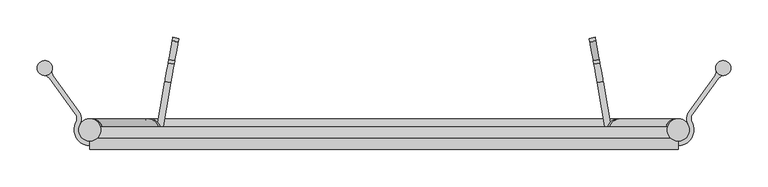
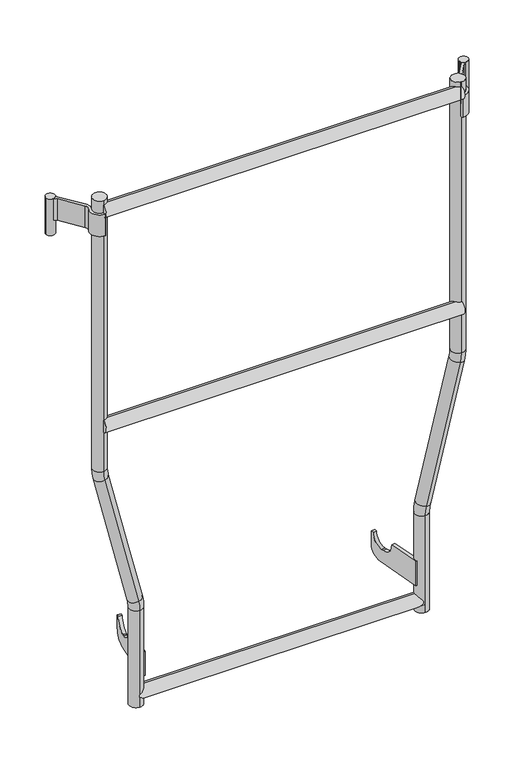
"""IFC4 building model written with IfcOpenShell, lengths in millimetres: proxy geometry, MILLS_TOEC_GARDE_CORPS_MDS : GCMDS100EE."""

from ifc_helpers import new_model, si_unit, point, frame, frame_2d, origin, place, context, project, spatial, polyline, circle_curve, ellipse_curve, trimmed, segment, composite_curve, outline, extrude, source, transform, mapped, element, save
from ifc_brep_helpers import plane_surface, cylinder_surface, revolved_surface, advanced_brep


def specialty_equipment_3c3e35c8(model_context):
    return source(origin(), model_context, "Body", "SolidModel", [
        advanced_brep(
        [(-2311.0208401, -79.0, 96.9657303), (-2311.0208401, -109.0, 96.9657303), (-2311.0208401, -109.0, -532.2491548), (-2311.0208401, -79.0, -532.2491548), (-2313.5691062, -79.0, -553.5140141), (-2313.5691062, -109.0, -553.5140141), (-2388.4725739, -109.0, -861.5545253), (-2388.4725739, -79.0, -861.5545253), (-2391.0208401, -79.0, -882.8193846), (-2391.0208401, -109.0, -882.8193846), (-2391.0208401, -79.0, -1108.0342697), (-2391.0208401, -109.0, -1108.0342697)],
        [
            (0, 1, circle_curve(frame((-2311.0208401, -94.0, 96.9657303), z_axis=(0.0, 0.0, 1.0), x_axis=(0.0, -1.0, 0.0)), 15.0)),
            (1, 0, circle_curve(frame((-2311.0208401, -94.0, 96.9657303), z_axis=(0.0, 0.0, 1.0), x_axis=(0.0, -1.0, 0.0)), 15.0)),
            (1, 2),
            (2, 3, circle_curve(frame((-2311.0208401, -94.0, -532.2491548), z_axis=(0.0, 0.0, 1.0), x_axis=(0.0, -1.0, 0.0)), 15.0)),
            (3, 0),
            (3, 2, circle_curve(frame((-2311.0208401, -94.0, -532.2491548), z_axis=(0.0, 0.0, 1.0), x_axis=(0.0, -1.0, 0.0)), 15.0)),
            (4, 3, circle_curve(frame((-2401.0208401, -79.0, -532.2491548), z_axis=(0.0, -1.0, 0.0), x_axis=(1.0, 0.0, 0.0)), 90.0)),
            (2, 5, circle_curve(frame((-2401.0208401, -109.0, -532.2491548), z_axis=(0.0, 1.0, 0.0), x_axis=(1.0, 0.0, 0.0)), 90.0)),
            (5, 4, circle_curve(frame((-2313.5691062, -94.0, -553.5140141), z_axis=(0.23627621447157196, 0.0, 0.9716859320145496), x_axis=(0.0, -1.0, 0.0)), 15.0)),
            (4, 5, circle_curve(frame((-2313.5691062, -94.0, -553.5140141), z_axis=(0.23627621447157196, 0.0, 0.9716859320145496), x_axis=(0.0, -1.0, 0.0)), 15.0)),
            (5, 6),
            (6, 7, circle_curve(frame((-2388.4725739, -94.0, -861.5545253), z_axis=(0.23627621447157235, 0.0, 0.9716859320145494), x_axis=(0.0, -1.0, 0.0)), 15.0)),
            (7, 4),
            (7, 6, circle_curve(frame((-2388.4725739, -94.0, -861.5545253), z_axis=(0.23627621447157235, 0.0, 0.9716859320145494), x_axis=(0.0, -1.0, 0.0)), 15.0)),
            (8, 7, circle_curve(frame((-2301.0208401, -79.0, -882.8193846), z_axis=(0.0, 1.0, 0.0), x_axis=(-0.9716859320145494, 0.0, 0.23627621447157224)), 90.0)),
            (6, 9, circle_curve(frame((-2301.0208401, -109.0, -882.8193846), z_axis=(0.0, -1.0, 0.0), x_axis=(-0.9716859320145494, 0.0, 0.23627621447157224)), 90.0)),
            (9, 8, circle_curve(frame((-2391.0208401, -94.0, -882.8193846), z_axis=(0.0, 0.0, 1.0), x_axis=(0.0, -1.0, 0.0)), 15.0)),
            (8, 9, circle_curve(frame((-2391.0208401, -94.0, -882.8193846), z_axis=(0.0, 0.0, 1.0), x_axis=(0.0, -1.0, 0.0)), 15.0)),
            (10, 11, circle_curve(frame((-2391.0208401, -94.0, -1108.0342697), z_axis=(0.0, 0.0, -1.0), x_axis=(0.0, -1.0, 0.0)), 15.0)),
            (11, 10, circle_curve(frame((-2391.0208401, -94.0, -1108.0342697), z_axis=(0.0, 0.0, -1.0), x_axis=(0.0, -1.0, 0.0)), 15.0)),
            (9, 11),
            (10, 8),
        ],
        [
            plane_surface(frame((-2311.0208401, -94.0, 96.9657303), z_axis=(0.0, 0.0, 1.0), x_axis=(0.0, -1.0, 0.0))),
            cylinder_surface(frame((-2311.0208401, -94.0, 96.9657303), z_axis=(0.0, 0.0, 1.0), x_axis=(0.0, -1.0, 0.0)), 15.0),
            revolved_surface(trimmed(ellipse_curve(frame((-2311.0208401, -94.0, -532.2491548), z_axis=(0.0, 0.0, 1.0), x_axis=(0.0, -1.0, 0.0)), 15.0, 15.0), [point((-2311.0208401, -109.0, -532.2491548))], [point((-2311.0208401, -79.0, -532.2491548))], True, "CARTESIAN"), (-2401.0208401, -94.0, -532.2491548), (0.0, 1.0, 0.0)),
            revolved_surface(trimmed(ellipse_curve(frame((-2311.0208401, -94.0, -532.2491548), z_axis=(0.0, 0.0, 1.0), x_axis=(0.0, -1.0, 0.0)), 15.0, 15.0), [point((-2311.0208401, -79.0, -532.2491548))], [point((-2311.0208401, -109.0, -532.2491548))], True, "CARTESIAN"), (-2401.0208401, -94.0, -532.2491548), (0.0, 1.0, 0.0)),
            cylinder_surface(frame((-2313.5691062, -94.0, -553.5140141), z_axis=(0.23627621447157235, 0.0, 0.9716859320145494), x_axis=(0.0, -1.0, 0.0)), 15.0),
            revolved_surface(trimmed(ellipse_curve(frame((-2388.4725739, -94.0, -861.5545253), z_axis=(0.23627621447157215, 0.0, 0.9716859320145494), x_axis=(0.0, -1.0, 0.0)), 15.0, 15.0), [point((-2388.4725739, -109.0, -861.5545253))], [point((-2388.4725739, -79.0, -861.5545253))], True, "CARTESIAN"), (-2301.0208401, -94.0, -882.8193846), (0.0, -1.0, 0.0)),
            revolved_surface(trimmed(ellipse_curve(frame((-2388.4725739, -94.0, -861.5545253), z_axis=(0.23627621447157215, 0.0, 0.9716859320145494), x_axis=(0.0, -1.0, 0.0)), 15.0, 15.0), [point((-2388.4725739, -79.0, -861.5545253))], [point((-2388.4725739, -109.0, -861.5545253))], True, "CARTESIAN"), (-2301.0208401, -94.0, -882.8193846), (0.0, -1.0, 0.0)),
            plane_surface(frame((-2391.0208401, -94.0, -1108.0342697), z_axis=(0.0, 0.0, -1.0), x_axis=(0.0, -1.0, 0.0))),
            cylinder_surface(frame((-2391.0208401, -94.0, -882.8193846), z_axis=(0.0, 0.0, 1.0), x_axis=(0.0, -1.0, 0.0)), 15.0),
        ],
        [
            (0, [[1, 2]]),
            (1, [[-2, 3, 4, 5]]),
            (1, [[-1, -5, 6, -3]]),
            (2, [[7, -4, 8, 9]]),
            (3, [[-8, -6, -7, 10]]),
            (4, [[-9, 11, 12, 13]]),
            (4, [[-10, -13, 14, -11]]),
            (5, [[15, -12, 16, 17]]),
            (6, [[-16, -14, -15, 18]]),
            (7, [[19, 20]]),
            (8, [[-17, 21, -19, 22]]),
            (8, [[-18, -22, -20, -21]]),
        ],
    ),
        extrude(outline(composite_curve([segment(trimmed(circle_curve(frame_2d((-94.0, -1083.0342697)), 15.0), [point((-94.0, -1098.0342697))], [point((-94.0, -1068.0342697))], False, "CARTESIAN"), True, "CONTINUOUS"), segment(trimmed(circle_curve(frame_2d((-94.0, -1083.0342697)), 15.0), [point((-94.0, -1068.0342697))], [point((-94.0, -1098.0342697))], False, "CARTESIAN"), True, "CONTINUOUS")], self_intersect=False)), frame((-3019.0208401, 0.0, 0.0), z_axis=(1.0, 0.0, 0.0), x_axis=(0.0, 1.0, 0.0)), (0.0, 0.0, 1.0), 628.0),
        extrude(outline(composite_curve([segment(polyline([(1.0, 0.0), (1.0, -56.0), (-71.0236376, -56.0)]), True, "CONTINUOUS"), segment(trimmed(circle_curve(frame_2d((-96.0036296, -55.0)), 25.0), [point((-71.0236376, -56.0))], [point((-96.0036296, -30.0))], True, "CARTESIAN"), True, "CONTINUOUS"), segment(polyline([(-96.0036296, -30.0), (-101.0, -30.0)]), True, "CONTINUOUS"), segment(trimmed(circle_curve(frame_2d((-101.0, -55.0)), 25.0), [point((-101.0, -30.0))], [point((-125.979992, -56.0))], True, "CARTESIAN"), True, "CONTINUOUS"), segment(polyline([(-125.979992, -56.0), (-131.0, -56.0), (-131.0, -25.0)]), True, "CONTINUOUS"), segment(trimmed(circle_curve(frame_2d((-106.0, -25.0)), 25.0), [point((-131.0, -25.0))], [point((-106.0, 0.0))], False, "CARTESIAN"), True, "CONTINUOUS"), segment(polyline([(-106.0, 0.0), (1.0, 0.0)]), True, "CONTINUOUS")], self_intersect=False)), frame((-2407.2782405, -100.0151851, -1045.0342697), z_axis=(0.9848149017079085, 0.17360763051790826, 0.0), x_axis=(0.17360763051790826, -0.9848149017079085, 0.0)), (0.0, 0.0, 1.0), 8.0),
        extrude(outline(composite_curve([segment(polyline([(55.0, 0.0), (55.0, -107.0)]), True, "CONTINUOUS"), segment(trimmed(circle_curve(frame_2d((30.0, -107.0)), 25.0), [point((55.0, -107.0))], [point((30.0, -132.0))], False, "CARTESIAN"), True, "CONTINUOUS"), segment(polyline([(30.0, -132.0), (-1.0, -132.0), (-1.0, -126.979992)]), True, "CONTINUOUS"), segment(trimmed(circle_curve(frame_2d((0.0, -102.0)), 25.0), [point((-1.0, -126.979992))], [point((25.0, -102.0))], True, "CARTESIAN"), True, "CONTINUOUS"), segment(polyline([(25.0, -102.0), (25.0, -97.0036297)]), True, "CONTINUOUS"), segment(trimmed(circle_curve(frame_2d((0.0, -97.0036297)), 25.0), [point((25.0, -97.0036297))], [point((-1.0, -72.0236376))], True, "CARTESIAN"), True, "CONTINUOUS"), segment(polyline([(-1.0, -72.0236376), (-1.0, 0.0), (55.0, 0.0)]), True, "CONTINUOUS")], self_intersect=False)), frame((-3002.9370473, -101.0, -990.0342697), z_axis=(-0.9848149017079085, 0.17360763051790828, 0.0), x_axis=(0.0, 0.0, -1.0)), (0.0, 0.0, 1.0), 8.0),
        advanced_brep(
        [(-3099.0208401, -79.0, 96.9657303), (-3099.0208401, -109.0, 96.9657303), (-3099.0208401, -79.0, -532.2491548), (-3099.0208401, -109.0, -532.2491548), (-3096.4725739, -109.0, -553.5140141), (-3096.4725739, -79.0, -553.5140141), (-3021.5691062, -79.0, -861.5545253), (-3021.5691062, -109.0, -861.5545253), (-3019.0208401, -109.0, -882.8193846), (-3019.0208401, -79.0, -882.8193846), (-3019.0208401, -79.0, -1108.0342697), (-3019.0208401, -109.0, -1108.0342697)],
        [
            (0, 1, circle_curve(frame((-3099.0208401, -94.0, 96.9657303), z_axis=(0.0, 0.0, 1.0), x_axis=(0.0, -1.0, 0.0)), 15.0)),
            (1, 0, circle_curve(frame((-3099.0208401, -94.0, 96.9657303), z_axis=(0.0, 0.0, 1.0), x_axis=(0.0, -1.0, 0.0)), 15.0)),
            (0, 2),
            (2, 3, circle_curve(frame((-3099.0208401, -94.0, -532.2491548), z_axis=(0.0, 0.0, 1.0), x_axis=(0.0, -1.0, 0.0)), 15.0)),
            (3, 1),
            (3, 2, circle_curve(frame((-3099.0208401, -94.0, -532.2491548), z_axis=(0.0, 0.0, 1.0), x_axis=(0.0, -1.0, 0.0)), 15.0)),
            (4, 3, circle_curve(frame((-3009.0208401, -109.0, -532.2491548), z_axis=(0.0, 1.0, 0.0), x_axis=(-1.0, 0.0, 0.0)), 90.0)),
            (2, 5, circle_curve(frame((-3009.0208401, -79.0, -532.2491548), z_axis=(0.0, -1.0, 0.0), x_axis=(-1.0, 0.0, 0.0)), 90.0)),
            (5, 4, circle_curve(frame((-3096.4725739, -94.0, -553.5140141), z_axis=(-0.2362762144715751, 0.0, 0.9716859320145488), x_axis=(0.0, -1.0, 0.0)), 15.0)),
            (4, 5, circle_curve(frame((-3096.4725739, -94.0, -553.5140141), z_axis=(-0.2362762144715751, 0.0, 0.9716859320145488), x_axis=(0.0, -1.0, 0.0)), 15.0)),
            (5, 6),
            (6, 7, circle_curve(frame((-3021.5691062, -94.0, -861.5545253), z_axis=(-0.23627621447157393, 0.0, 0.971685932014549), x_axis=(0.0, -1.0, 0.0)), 15.0)),
            (7, 4),
            (7, 6, circle_curve(frame((-3021.5691062, -94.0, -861.5545253), z_axis=(-0.23627621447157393, 0.0, 0.971685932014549), x_axis=(0.0, -1.0, 0.0)), 15.0)),
            (8, 7, circle_curve(frame((-3109.0208401, -109.0, -882.8193846), z_axis=(0.0, -1.0, 0.0), x_axis=(0.9716859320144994, 0.0, 0.23627621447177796)), 90.0)),
            (6, 9, circle_curve(frame((-3109.0208401, -79.0, -882.8193846), z_axis=(0.0, 1.0, 0.0), x_axis=(0.9716859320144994, 0.0, 0.23627621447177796)), 90.0)),
            (9, 8, circle_curve(frame((-3019.0208401, -94.0, -882.8193846), z_axis=(0.0, 0.0, 0.9999999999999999), x_axis=(0.0, -1.0, 0.0)), 15.0)),
            (8, 9, circle_curve(frame((-3019.0208401, -94.0, -882.8193846), z_axis=(0.0, 0.0, 0.9999999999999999), x_axis=(0.0, -1.0, 0.0)), 15.0)),
            (10, 11, circle_curve(frame((-3019.0208401, -94.0, -1108.0342697), z_axis=(0.0, 0.0, -1.0), x_axis=(0.0, -1.0, 0.0)), 15.0)),
            (11, 10, circle_curve(frame((-3019.0208401, -94.0, -1108.0342697), z_axis=(0.0, 0.0, -1.0), x_axis=(0.0, -1.0, 0.0)), 15.0)),
            (9, 10),
            (11, 8),
        ],
        [
            plane_surface(frame((-3099.0208401, -94.0, 96.9657303), z_axis=(0.0, 0.0, 1.0), x_axis=(0.0, -1.0, 0.0))),
            cylinder_surface(frame((-3099.0208401, -94.0, 96.9657303), z_axis=(0.0, 0.0, 1.0), x_axis=(0.0, -1.0, 0.0)), 15.0),
            revolved_surface(trimmed(ellipse_curve(frame((-3099.0208401, -94.0, -532.2491548), z_axis=(0.0, 0.0, 1.0), x_axis=(0.0, -1.0, 0.0)), 15.0, 15.0), [point((-3099.0208401, -79.0, -532.2491548))], [point((-3099.0208401, -109.0, -532.2491548))], True, "CARTESIAN"), (-3009.0208401, -94.0, -532.2491548), (0.0, -1.0, 0.0)),
            revolved_surface(trimmed(ellipse_curve(frame((-3099.0208401, -94.0, -532.2491548), z_axis=(0.0, 0.0, 1.0), x_axis=(0.0, -1.0, 0.0)), 15.0, 15.0), [point((-3099.0208401, -109.0, -532.2491548))], [point((-3099.0208401, -79.0, -532.2491548))], True, "CARTESIAN"), (-3009.0208401, -94.0, -532.2491548), (0.0, -1.0, 0.0)),
            cylinder_surface(frame((-3096.4725739, -94.0, -553.5140141), z_axis=(-0.23627621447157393, 0.0, 0.971685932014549), x_axis=(0.0, -1.0, 0.0)), 15.0),
            revolved_surface(trimmed(ellipse_curve(frame((-3021.5691062, -94.0, -861.5545253), z_axis=(-0.23627621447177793, 0.0, 0.9716859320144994), x_axis=(0.0, -1.0, 0.0)), 15.0, 15.0), [point((-3021.5691062, -79.0, -861.5545253))], [point((-3021.5691062, -109.0, -861.5545253))], True, "CARTESIAN"), (-3109.0208401, -94.0, -882.8193846), (0.0, 1.0, 0.0)),
            revolved_surface(trimmed(ellipse_curve(frame((-3021.5691062, -94.0, -861.5545253), z_axis=(-0.23627621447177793, 0.0, 0.9716859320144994), x_axis=(0.0, -1.0, 0.0)), 15.0, 15.0), [point((-3021.5691062, -109.0, -861.5545253))], [point((-3021.5691062, -79.0, -861.5545253))], True, "CARTESIAN"), (-3109.0208401, -94.0, -882.8193846), (0.0, 1.0, 0.0)),
            plane_surface(frame((-3019.0208401, -94.0, -1108.0342697), z_axis=(0.0, 0.0, -1.0), x_axis=(0.0, -1.0, 0.0))),
            cylinder_surface(frame((-3019.0208401, -94.0, -882.8193846), z_axis=(0.0, 0.0, 1.0), x_axis=(0.0, -1.0, 0.0)), 15.0),
        ],
        [
            (0, [[1, 2]]),
            (1, [[-1, 3, 4, 5]]),
            (1, [[-2, -5, 6, -3]]),
            (2, [[7, -4, 8, 9]]),
            (3, [[-8, -6, -7, 10]]),
            (4, [[-9, 11, 12, 13]]),
            (4, [[-10, -13, 14, -11]]),
            (5, [[15, -12, 16, 17]]),
            (6, [[-16, -14, -15, 18]]),
            (7, [[19, 20]]),
            (8, [[-17, 21, -20, 22]]),
            (8, [[-18, -22, -19, -21]]),
        ],
    ),
        extrude(outline(composite_curve([segment(trimmed(circle_curve(frame_2d((-105.1, -428.0342697)), 15.0), [point((-105.1, -443.0342697))], [point((-105.1, -413.0342697))], False, "CARTESIAN"), True, "CONTINUOUS"), segment(trimmed(circle_curve(frame_2d((-105.1, -428.0342697)), 15.0), [point((-105.1, -413.0342697))], [point((-105.1, -443.0342697))], False, "CARTESIAN"), True, "CONTINUOUS")], self_intersect=False)), frame((-3099.0208401, 0.0, 0.0), z_axis=(1.0, 0.0, 0.0), x_axis=(0.0, 1.0, 0.0)), (0.0, 0.0, 1.0), 788.0),
        extrude(outline(composite_curve([segment(trimmed(circle_curve(frame_2d((-3159.2688284, -11.0757581)), 10.0), [point((-3169.2688284, -11.0757581))], [point((-3149.2688284, -11.0757581))], False, "CARTESIAN"), True, "CONTINUOUS"), segment(trimmed(circle_curve(frame_2d((-3159.2688284, -11.0757581)), 10.0), [point((-3149.2688284, -11.0757581))], [point((-3169.2688284, -11.0757581))], False, "CARTESIAN"), True, "CONTINUOUS")], self_intersect=False)), frame((0.0, 0.0, -16.0342697), z_axis=(0.0, 0.0, 1.0), x_axis=(1.0, 0.0, 0.0)), (0.0, 0.0, 1.0), 85.0),
        extrude(outline(composite_curve([segment(trimmed(circle_curve(frame_2d((-3160.852487, -31.0129601)), 10.0), [point((-3152.762317, -25.1351076))], [point((-3160.0606577, -21.0443591))], True, "CARTESIAN"), True, "CONTINUOUS"), segment(trimmed(circle_curve(frame_2d((-3159.2688284, -11.0757581)), 10.0), [point((-3160.0606577, -21.0443591))], [point((-3149.5434368, -13.4031508))], True, "CARTESIAN"), True, "CONTINUOUS"), segment(trimmed(circle_curve(frame_2d((-3139.8180451, -15.7305436)), 10.0), [point((-3149.5434368, -13.4031508))], [point((-3147.908215, -21.6083961))], True, "CARTESIAN"), True, "CONTINUOUS"), segment(polyline([(-3147.908215, -21.6083961), (-3113.5073033, -68.957189)]), True, "CONTINUOUS"), segment(trimmed(circle_curve(frame_2d((-3127.2605922, -78.9495383)), 17.0), [point((-3113.5073033, -68.957189))], [point((-3112.2582239, -86.9450961))], False, "CARTESIAN"), True, "CONTINUOUS"), segment(trimmed(circle_curve(frame_2d((-3099.0208401, -94.0)), 15.0), [point((-3112.2582239, -86.9450961))], [point((-3099.0208401, -109.0))], True, "CARTESIAN"), True, "CONTINUOUS"), segment(trimmed(circle_curve(frame_2d((-3099.0208401, -112.1303467)), 3.1303467), [point((-3099.0208401, -109.0))], [point((-3099.0208401, -115.2606935))], False, "CARTESIAN"), True, "CONTINUOUS"), segment(trimmed(circle_curve(frame_2d((-3098.6210798, -93.9389821)), 21.3254586), [point((-3099.0208401, -115.2606935))], [point((-3117.5531774, -84.1231345))], False, "CARTESIAN"), True, "CONTINUOUS"), segment(trimmed(circle_curve(frame_2d((-3127.4996225, -78.9661366)), 11.2038564), [point((-3117.5531774, -84.1231345))], [point((-3118.3614053, -72.4839005))], True, "CARTESIAN"), True, "CONTINUOUS"), segment(polyline([(-3118.3614053, -72.4839005), (-3152.762317, -25.1351076)]), True, "CONTINUOUS")], self_intersect=False)), frame((0.0, 0.0, 18.9657303), z_axis=(0.0, 0.0, 1.0), x_axis=(1.0, 0.0, 0.0)), (0.0, 0.0, 1.0), 50.0),
        extrude(outline(composite_curve([segment(trimmed(circle_curve(frame_2d((-2250.7728517, -11.0757581)), 10.0), [point((-2240.7728517, -11.0757581))], [point((-2260.7728517, -11.0757581))], False, "CARTESIAN"), True, "CONTINUOUS"), segment(trimmed(circle_curve(frame_2d((-2250.7728517, -11.0757581)), 10.0), [point((-2260.7728517, -11.0757581))], [point((-2240.7728517, -11.0757581))], False, "CARTESIAN"), True, "CONTINUOUS")], self_intersect=False)), frame((0.0, 0.0, -16.0342697), z_axis=(0.0, 0.0, 1.0), x_axis=(1.0, 0.0, 0.0)), (0.0, 0.0, 1.0), 85.0),
        extrude(outline(composite_curve([segment(polyline([(-2257.2793631, -25.1351076), (-2291.6802748, -72.4839005)]), True, "CONTINUOUS"), segment(trimmed(circle_curve(frame_2d((-2282.5420576, -78.9661366)), 11.2038564), [point((-2291.6802748, -72.4839005))], [point((-2292.4885027, -84.1231345))], True, "CARTESIAN"), True, "CONTINUOUS"), segment(trimmed(circle_curve(frame_2d((-2311.4206003, -93.9389821)), 21.3254586), [point((-2292.4885027, -84.1231345))], [point((-2311.0208401, -115.2606935))], False, "CARTESIAN"), True, "CONTINUOUS"), segment(trimmed(circle_curve(frame_2d((-2311.0208401, -112.1303467)), 3.1303467), [point((-2311.0208401, -115.2606935))], [point((-2311.0208401, -109.0))], False, "CARTESIAN"), True, "CONTINUOUS"), segment(trimmed(circle_curve(frame_2d((-2311.0208401, -94.0)), 15.0), [point((-2311.0208401, -109.0))], [point((-2297.7834562, -86.9450961))], True, "CARTESIAN"), True, "CONTINUOUS"), segment(trimmed(circle_curve(frame_2d((-2282.7810879, -78.9495383)), 17.0), [point((-2297.7834562, -86.9450961))], [point((-2296.5343768, -68.957189))], False, "CARTESIAN"), True, "CONTINUOUS"), segment(polyline([(-2296.5343768, -68.957189), (-2262.1334651, -21.6083961)]), True, "CONTINUOUS"), segment(trimmed(circle_curve(frame_2d((-2270.223635, -15.7305436)), 10.0), [point((-2262.1334651, -21.6083961))], [point((-2260.4982434, -13.4031508))], True, "CARTESIAN"), True, "CONTINUOUS"), segment(trimmed(circle_curve(frame_2d((-2250.7728517, -11.0757581)), 10.0), [point((-2260.4982434, -13.4031508))], [point((-2249.9810224, -21.0443591))], True, "CARTESIAN"), True, "CONTINUOUS"), segment(trimmed(circle_curve(frame_2d((-2249.1891932, -31.0129601)), 10.0), [point((-2249.9810224, -21.0443591))], [point((-2257.2793631, -25.1351076))], True, "CARTESIAN"), True, "CONTINUOUS")], self_intersect=False)), frame((0.0, 0.0, 18.9657303), z_axis=(0.0, 0.0, 1.0), x_axis=(1.0, 0.0, 0.0)), (0.0, 0.0, 1.0), 50.0),
        extrude(outline(composite_curve([segment(trimmed(circle_curve(frame_2d((-105.1, 71.9657303)), 15.0), [point((-105.1, 56.9657303))], [point((-105.1, 86.9657303))], False, "CARTESIAN"), True, "CONTINUOUS"), segment(trimmed(circle_curve(frame_2d((-105.1, 71.9657303)), 15.0), [point((-105.1, 86.9657303))], [point((-105.1, 56.9657303))], False, "CARTESIAN"), True, "CONTINUOUS")], self_intersect=False)), frame((-3099.0208401, 0.0, 0.0), z_axis=(1.0, 0.0, 0.0), x_axis=(0.0, 1.0, 0.0)), (0.0, 0.0, 1.0), 788.0),
    ])


if __name__ == "__main__":
    model = new_model("IFC4")
    model_context = context("Model", 3, world=origin())
    ifc_project = project(units=[si_unit("LENGTHUNIT", "METRE", prefix="MILLI")], contexts=[model_context])
    site = spatial("IfcSite", under=ifc_project)
    building = spatial("IfcBuilding", under=site)
    placement = place(None, origin())
    specialty_equipment_shape = specialty_equipment_3c3e35c8(model_context)
    element("IfcBuildingElementProxy", 1, Name="MILLS_TOEC_GARDE_CORPS_MDS : GCMDS100EE", ObjectType="MILLS_TOEC_GARDE_CORPS_MDS : GCMDS100EE", at=placement, inside=building, context=model_context, shape_type="MappedRepresentation", body=[
        mapped(specialty_equipment_shape, transform((0.0, 0.0, 0.0), x_axis=(1.0, 0.0, 0.0), y_axis=(0.0, 1.0, 0.0), z_axis=(0.0, 0.0, 1.0))),
    ])
    save(model, "model.ifc")
